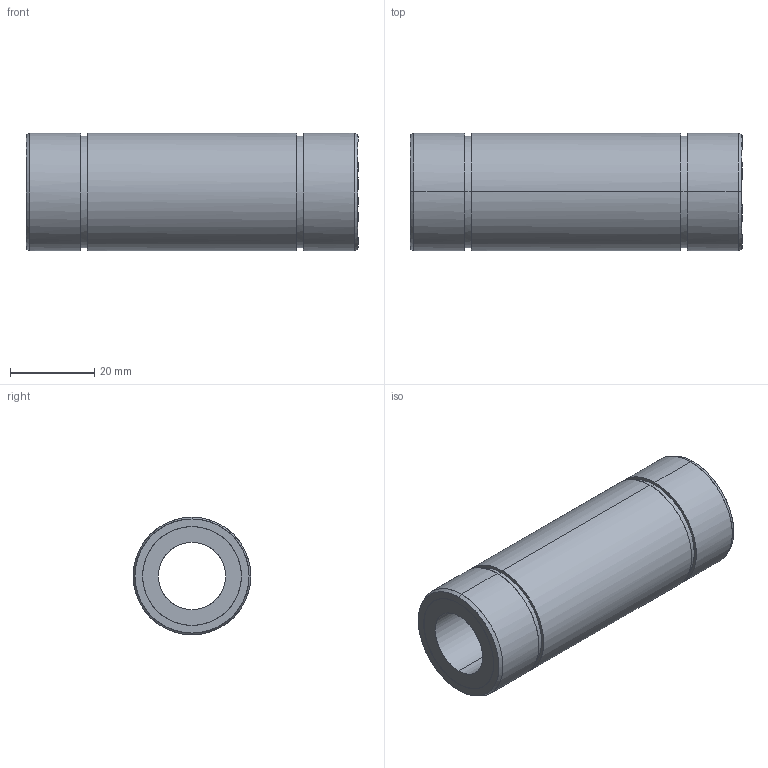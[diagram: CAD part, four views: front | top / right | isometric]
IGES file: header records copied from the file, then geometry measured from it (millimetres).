
Global section: file name: No Iges File Name specified; native system: AutoDesk Inventor R10; preprocessor: AutoDesk Inventor Iges Exporter R10; author: No Author specified; organization: No Organization specified; date: 20101216.152804; units: millimetre
Bounding box: 79 x 28 x 28 mm (x, y, z)
Surface area: 11921.1 mm2 (no closed solid volume)
Topology: 0 solids, 0 shells, 28 faces, 184 edges, 184 vertices
Faces by surface type: bspline 28
